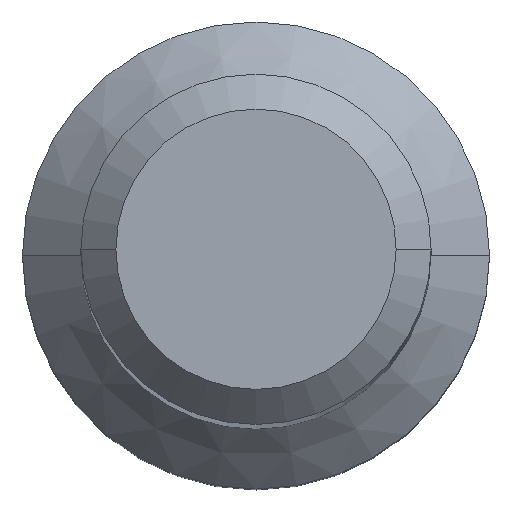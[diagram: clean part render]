
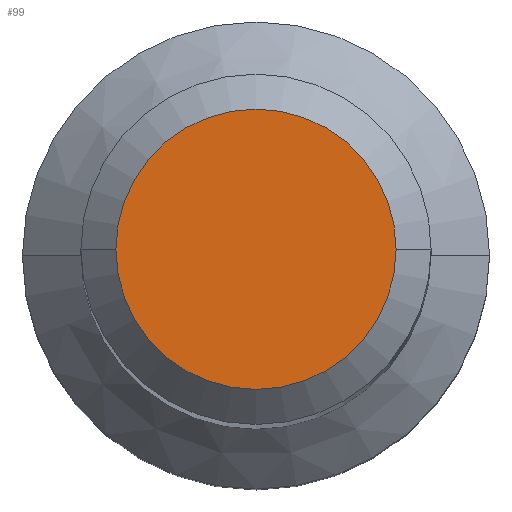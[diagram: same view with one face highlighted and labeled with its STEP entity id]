
A CAD part, top view. The second image highlights one B-rep face of the part: STEP entity #99.
In plain terms, the highlighted planar face has unit normal (0, 0, 1).
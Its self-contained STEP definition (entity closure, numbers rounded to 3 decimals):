
#99 = ADVANCED_FACE ( 'NONE', ( #711 ), #660, .T. ) ;
#118 = ORIENTED_EDGE ( 'NONE', *, *, #665, .F. ) ;
#141 = DIRECTION ( 'NONE',  ( 1., 0., 0. ) ) ;
#194 = CARTESIAN_POINT ( 'NONE',  ( 0., 3.6, 0. ) ) ;
#200 = ORIENTED_EDGE ( 'NONE', *, *, #715, .F. ) ;
#222 = VERTEX_POINT ( 'NONE', #618 ) ;
#224 = EDGE_LOOP ( 'NONE', ( #200, #118 ) ) ;
#249 = AXIS2_PLACEMENT_3D ( 'NONE', #361, #603, #365 ) ;
#300 = CIRCLE ( 'NONE', #249, 3.6 ) ;
#321 = DIRECTION ( 'NONE',  ( 0., 0., -1. ) ) ;
#324 = DIRECTION ( 'NONE',  ( -1., 0., 0. ) ) ;
#361 = CARTESIAN_POINT ( 'NONE',  ( 0., 0., 0. ) ) ;
#365 = DIRECTION ( 'NONE',  ( -1., 0., 0. ) ) ;
#367 = AXIS2_PLACEMENT_3D ( 'NONE', #194, #611, #141 ) ;
#422 = AXIS2_PLACEMENT_3D ( 'NONE', #672, #321, #324 ) ;
#432 = CIRCLE ( 'NONE', #422, 3.6 ) ;
#476 = CARTESIAN_POINT ( 'NONE',  ( -3.6, 0., 0. ) ) ;
#530 = VERTEX_POINT ( 'NONE', #476 ) ;
#603 = DIRECTION ( 'NONE',  ( 0., 0., -1. ) ) ;
#611 = DIRECTION ( 'NONE',  ( 0., 0., 1. ) ) ;
#618 = CARTESIAN_POINT ( 'NONE',  ( 3.6, 0., 0. ) ) ;
#660 = PLANE ( 'NONE',  #367 ) ;
#665 = EDGE_CURVE ( 'NONE', #222, #530, #300, .T. ) ;
#672 = CARTESIAN_POINT ( 'NONE',  ( 0., 0., 0. ) ) ;
#711 = FACE_OUTER_BOUND ( 'NONE', #224, .T. ) ;
#715 = EDGE_CURVE ( 'NONE', #530, #222, #432, .T. ) ;
